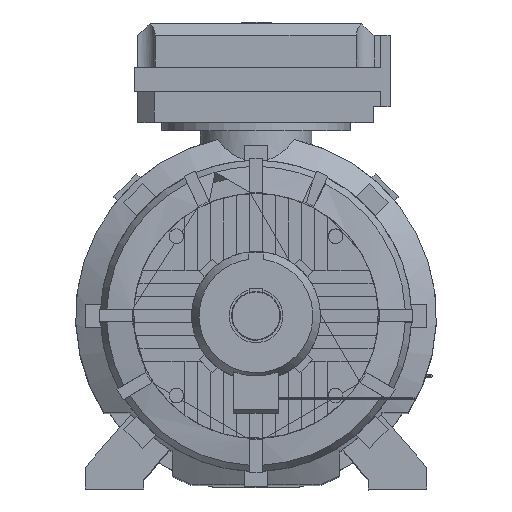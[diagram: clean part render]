
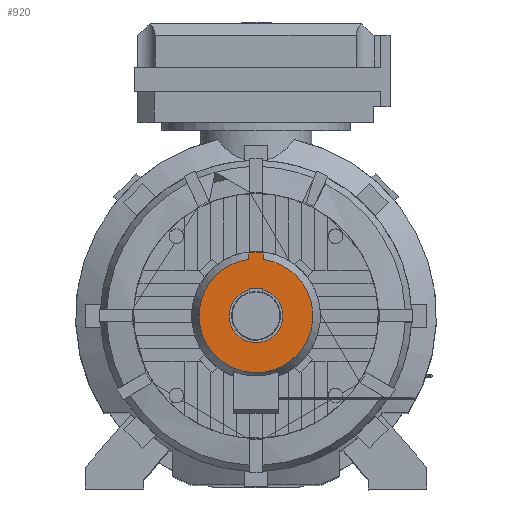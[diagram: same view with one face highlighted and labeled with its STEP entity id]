
A CAD part, top view. The second image highlights one B-rep face of the part: STEP entity #920.
In plain terms, the highlighted planar face has unit normal (0, 0, 1).
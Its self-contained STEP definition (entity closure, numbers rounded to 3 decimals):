
#865=CARTESIAN_POINT('',(55.0,0.,-3.5));
#866=VERTEX_POINT('',#865);
#867=CARTESIAN_POINT('',(0.,0.,-3.5));
#868=DIRECTION('',(0.,0.,1.));
#869=DIRECTION('',(0.829,-0.559,0.));
#870=AXIS2_PLACEMENT_3D('',#867,#868,#869);
#871=CIRCLE('',#870,55.);
#872=EDGE_CURVE('',#866,#866,#871,.T.);
#877=CARTESIAN_POINT('',(-128.4,1.6,-3.5));
#878=DIRECTION('',(0.0,0.,1.0));
#879=DIRECTION('',(1.0,0.0,0.0));
#880=AXIS2_PLACEMENT_3D('',#877,#878,#879);
#881=PLANE('',#880);
#882=CARTESIAN_POINT('',(15.,115.668,-3.5));
#883=VERTEX_POINT('',#882);
#884=CARTESIAN_POINT('',(15.,129.,-3.5));
#885=VERTEX_POINT('',#884);
#886=CARTESIAN_POINT('',(15.,115.668,-3.5));
#887=DIRECTION('',(0.,1.0,0.));
#888=VECTOR('',#887,13.332);
#889=LINE('',#886,#888);
#890=EDGE_CURVE('',#883,#885,#889,.T.);
#891=ORIENTED_EDGE('',*,*,#890,.T.);
#892=CARTESIAN_POINT('',(-15.,129.,-3.5));
#893=VERTEX_POINT('',#892);
#894=CARTESIAN_POINT('',(15.,129.,-3.5));
#895=DIRECTION('',(-1.0,0.0,0.0));
#896=VECTOR('',#895,30.);
#897=LINE('',#894,#896);
#898=EDGE_CURVE('',#885,#893,#897,.T.);
#899=ORIENTED_EDGE('',*,*,#898,.T.);
#900=CARTESIAN_POINT('',(-15.,115.668,-3.5));
#901=VERTEX_POINT('',#900);
#902=CARTESIAN_POINT('',(-15.,129.,-3.5));
#903=DIRECTION('',(0.0,-1.0,0.));
#904=VECTOR('',#903,13.332);
#905=LINE('',#902,#904);
#906=EDGE_CURVE('',#893,#901,#905,.T.);
#907=ORIENTED_EDGE('',*,*,#906,.T.);
#908=CARTESIAN_POINT('',(0.,0.,-3.5));
#909=DIRECTION('',(0.,0.,1.0));
#910=DIRECTION('',(-0.829,-0.559,0.));
#911=AXIS2_PLACEMENT_3D('',#908,#909,#910);
#912=CIRCLE('',#911,116.636);
#913=EDGE_CURVE('',#901,#883,#912,.T.);
#914=ORIENTED_EDGE('',*,*,#913,.T.);
#915=EDGE_LOOP('',(#891,#899,#907,#914));
#916=FACE_OUTER_BOUND('',#915,.T.);
#917=ORIENTED_EDGE('',*,*,#872,.F.);
#918=EDGE_LOOP('',(#917));
#919=FACE_BOUND('',#918,.T.);
#920=ADVANCED_FACE('',(#916,#919),#881,.T.);
